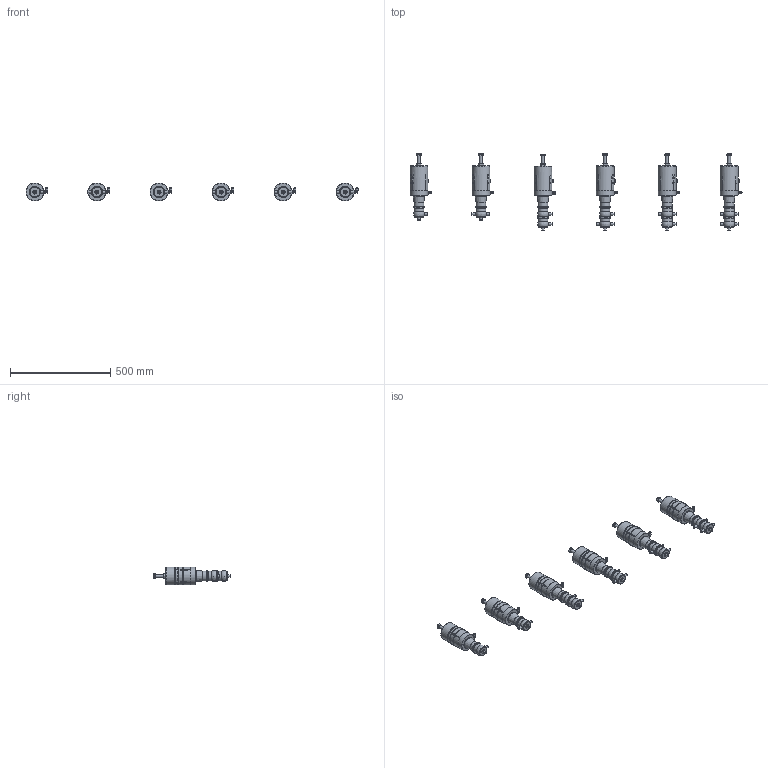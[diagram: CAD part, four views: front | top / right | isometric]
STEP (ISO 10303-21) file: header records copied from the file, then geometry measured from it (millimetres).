
FILE_DESCRIPTION((''),'2;1');
FILE_NAME('\\BV-SRV1\Ufficio tecnico\cad3d\PNEUMATICA\Ing1-1\pne bbzp e derivate\BBZS5\BBZS5-DN010-CIL83-SAL.iam.step','2009-10-19T10:17:36',(''),(''),'Autodesk Inventor 2010','Autodesk Inventor 2010','');
FILE_SCHEMA(('AUTOMOTIVE_DESIGN { 1 0 10303 214 1 1 1 1 }'));
Length unit declared in the file: millimetre
Products named in the file (7): BBZS5-DN010-CIL83-SAL; Assemblaggio-DN025; COR-INF-L-SAL-DN10; COR-INF-T-SAL-DN10; COR-SUP-L-SAL-DN10; COR-SUP-T-SAL-DN10; cil 83  tarabile
Assembly tree (22 placements, depth 2):
  BBZS5-DN010-CIL83-SAL
    Assemblaggio-DN025  x6
    COR-INF-L-SAL-DN10  x3
    COR-INF-T-SAL-DN10  x3
    COR-SUP-L-SAL-DN10  x2
    COR-SUP-T-SAL-DN10  x2
    cil 83  tarabile  x6
Bounding box: 1658.86 x 379.8 x 89.38 mm (x, y, z)
Volume: 7445400.4 mm3; surface area: 644626.8 mm2
Topology: 22 solids, 52 shells, 1314 faces, 3062 edges, 1843 vertices
Faces by surface type: plane 491, cylinder 343, cone 266, bspline 90, sphere 82, torus 42
Full cylindrical faces by diameter (mm): 4.9 x6, 6 x12, 7 x6, 8.3 x6, 10 x6, 11 x6, 11.5 x6, 12 x21, 14 x18, 19.37 x6, 49 x26, 57 x26, 84.813 x18, 86 x12, 86.1 x6, 88.5 x6, 89.5 x6
Entity records: 7382 total; most frequent: CARTESIAN_POINT 1942, DIRECTION 1078, ORIENTED_EDGE 904, AXIS2_PLACEMENT_3D 461, EDGE_CURVE 452, EDGE_LOOP 355, VERTEX_POINT 315, FACE_OUTER_BOUND 249
